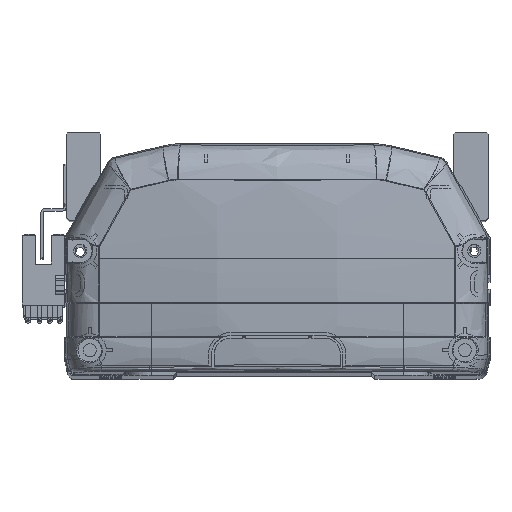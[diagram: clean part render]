
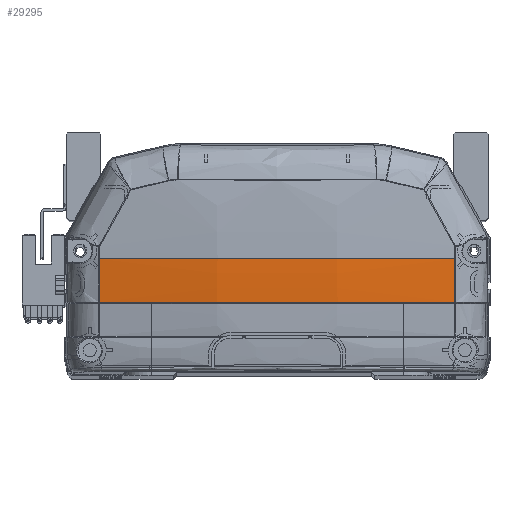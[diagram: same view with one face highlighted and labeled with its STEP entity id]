
A CAD part, top view. The second image highlights one B-rep face of the part: STEP entity #29295.
In plain terms, the highlighted free-form (B-spline) face has degree [3, 3] with [4, 4] control points.
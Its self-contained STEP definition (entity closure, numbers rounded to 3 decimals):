
#94 = VERTEX_POINT ( 'NONE', #24267 ) ;
#1400 = CARTESIAN_POINT ( 'NONE',  ( 8.363, 22.225, -9.48 ) ) ;
#3046 = ORIENTED_EDGE ( 'NONE', *, *, #52243, .T. ) ;
#3249 = CARTESIAN_POINT ( 'NONE',  ( -19.295, 26.549, -11.419 ) ) ;
#3446 = CARTESIAN_POINT ( 'NONE',  ( 57.335, 22.148, -4.7 ) ) ;
#3631 = CARTESIAN_POINT ( 'NONE',  ( -57.335, 31.38, -5.042 ) ) ;
#3642 = CARTESIAN_POINT ( 'NONE',  ( 6452.613, 35.969, -5.158 ) ) ;
#4313 = CARTESIAN_POINT ( 'NONE',  ( -56.661, 22.225, -4.818 ) ) ;
#6150 = VERTEX_POINT ( 'NONE', #41863 ) ;
#6171 = CARTESIAN_POINT ( 'NONE',  ( -56.647, 36., -5.158 ) ) ;
#7237 = CARTESIAN_POINT ( 'NONE',  ( 56.647, 35.969, -5.158 ) ) ;
#8665 = CIRCLE ( 'NONE', #43481, 6395.966 ) ;
#11970 = CARTESIAN_POINT ( 'NONE',  ( 4.761, 22.225, -9.537 ) ) ;
#12229 = CARTESIAN_POINT ( 'NONE',  ( 19.295, 21.828, -11.186 ) ) ;
#14979 = DIRECTION ( 'NONE',  ( 0., 1., 0. ) ) ;
#15966 = CARTESIAN_POINT ( 'NONE',  ( 1.152, 22.225, -9.568 ) ) ;
#16270 = CARTESIAN_POINT ( 'NONE',  ( -19.295, 21.828, -11.186 ) ) ;
#16474 = CARTESIAN_POINT ( 'NONE',  ( 57.335, 26.762, -4.928 ) ) ;
#18660 = AXIS2_PLACEMENT_3D ( 'NONE', #41523, #14979, #50618 ) ;
#18872 = CARTESIAN_POINT ( 'NONE',  ( 2.357, 22.225, -9.562 ) ) ;
#19331 = B_SPLINE_CURVE_WITH_KNOTS ( 'NONE', 3,
 ( #50505, #23970, #32873, #46248, #50108, #23578, #1400, #11970, #18872, #15966, #38864, #23462, #27898 ),
 .UNSPECIFIED., .F., .F.,
 ( 4, 2, 2, 1, 2, 2, 4 ),
 ( 0., 0.25, 0.375, 0.438, 0.469, 0.5, 1. ),
 .UNSPECIFIED. ) ;
#20100 = B_SPLINE_CURVE_WITH_KNOTS ( 'NONE', 3,
 ( #6171, #37030, #28091, #55454 ),
 .UNSPECIFIED., .F., .F.,
 ( 4, 4 ),
 ( 0., 1. ),
 .UNSPECIFIED. ) ;
#20356 = CARTESIAN_POINT ( 'NONE',  ( -56.647, 36., -5.158 ) ) ;
#21302 = CARTESIAN_POINT ( 'NONE',  ( -19.295, 36., -11.535 ) ) ;
#21323 = DIRECTION ( 'NONE',  ( 0., 0., -1. ) ) ;
#21489 = CARTESIAN_POINT ( 'NONE',  ( 57.335, 31.38, -5.042 ) ) ;
#22883 = CARTESIAN_POINT ( 'NONE',  ( 56.647, 31.387, -5.158 ) ) ;
#23109 = CIRCLE ( 'NONE', #18660, 340.733 ) ;
#23462 = CARTESIAN_POINT ( 'NONE',  ( -38.235, 22.225, -7.93 ) ) ;
#23475 = ORIENTED_EDGE ( 'NONE', *, *, #57516, .F. ) ;
#23578 = CARTESIAN_POINT ( 'NONE',  ( 11.954, 22.225, -9.367 ) ) ;
#23970 = CARTESIAN_POINT ( 'NONE',  ( 47.432, 22.225, -6.377 ) ) ;
#24267 = CARTESIAN_POINT ( 'NONE',  ( 56.661, 22.225, -4.818 ) ) ;
#24996 = ORIENTED_EDGE ( 'NONE', *, *, #54893, .F. ) ;
#25603 = CARTESIAN_POINT ( 'NONE',  ( 19.295, 36., -11.535 ) ) ;
#27898 = CARTESIAN_POINT ( 'NONE',  ( -56.661, 22.225, -4.818 ) ) ;
#28091 = CARTESIAN_POINT ( 'NONE',  ( -56.652, 26.814, -5.045 ) ) ;
#29295 = ADVANCED_FACE ( 'NONE', ( #46388 ), #36844, .T. ) ;
#29468 = DIRECTION ( 'NONE',  ( -1., 0., 0. ) ) ;
#29769 = B_SPLINE_CURVE_WITH_KNOTS ( 'NONE', 3,
 ( #36460, #35889, #22883, #40339 ),
 .UNSPECIFIED., .F., .F.,
 ( 4, 4 ),
 ( 0., 1. ),
 .UNSPECIFIED. ) ;
#30033 = CARTESIAN_POINT ( 'NONE',  ( -57.335, 36., -5.042 ) ) ;
#30221 = CARTESIAN_POINT ( 'NONE',  ( -57.335, 22.148, -4.7 ) ) ;
#32873 = CARTESIAN_POINT ( 'NONE',  ( 38.071, 22.225, -7.566 ) ) ;
#35889 = CARTESIAN_POINT ( 'NONE',  ( 56.652, 26.806, -5.044 ) ) ;
#36460 = CARTESIAN_POINT ( 'NONE',  ( 56.661, 22.225, -4.818 ) ) ;
#36844 =( BOUNDED_SURFACE ( )  B_SPLINE_SURFACE ( 3, 3, ( 
 ( #3446, #16474, #21489, #39177 ),
 ( #12229, #47510, #56826, #25603 ),
 ( #16270, #3249, #56645, #21302 ),
 ( #30221, #56455, #3631, #30033 ) ),
 .UNSPECIFIED., .F., .F., .F. ) 
 B_SPLINE_SURFACE_WITH_KNOTS ( ( 4, 4 ),
 ( 4, 4 ),
 ( 0., 1. ),
 ( 0., 1. ),
 .UNSPECIFIED. ) 
 GEOMETRIC_REPRESENTATION_ITEM ( )  RATIONAL_B_SPLINE_SURFACE ( (
 ( 1., 1., 1., 1.),
 ( 0.99, 0.99, 0.99, 0.99),
 ( 0.99, 0.99, 0.99, 0.99),
 ( 1., 1., 1., 1.) ) ) 
 REPRESENTATION_ITEM ( '' )  SURFACE ( )  );
#37030 = CARTESIAN_POINT ( 'NONE',  ( -56.647, 31.405, -5.158 ) ) ;
#38864 = CARTESIAN_POINT ( 'NONE',  ( -19.28, 22.225, -9.565 ) ) ;
#39177 = CARTESIAN_POINT ( 'NONE',  ( 57.335, 36., -5.042 ) ) ;
#40339 = CARTESIAN_POINT ( 'NONE',  ( 56.647, 35.969, -5.158 ) ) ;
#41523 = CARTESIAN_POINT ( 'NONE',  ( 0., 36., 330.833 ) ) ;
#41863 = CARTESIAN_POINT ( 'NONE',  ( 56.647, 36., -5.158 ) ) ;
#43481 = AXIS2_PLACEMENT_3D ( 'NONE', #3642, #21323, #29468 ) ;
#43749 = ORIENTED_EDGE ( 'NONE', *, *, #47572, .F. ) ;
#44039 = VERTEX_POINT ( 'NONE', #20356 ) ;
#46248 = CARTESIAN_POINT ( 'NONE',  ( 23.877, 22.225, -8.763 ) ) ;
#46388 = FACE_OUTER_BOUND ( 'NONE', #50408, .T. ) ;
#47510 = CARTESIAN_POINT ( 'NONE',  ( 19.295, 26.549, -11.419 ) ) ;
#47572 = EDGE_CURVE ( 'NONE', #44039, #49665, #20100, .T. ) ;
#48885 = EDGE_CURVE ( 'NONE', #94, #50966, #29769, .T. ) ;
#49665 = VERTEX_POINT ( 'NONE', #4313 ) ;
#50108 = CARTESIAN_POINT ( 'NONE',  ( 19.121, 22.225, -9.064 ) ) ;
#50408 = EDGE_LOOP ( 'NONE', ( #23475, #24996, #54230, #3046, #43749 ) ) ;
#50505 = CARTESIAN_POINT ( 'NONE',  ( 56.661, 22.225, -4.818 ) ) ;
#50618 = DIRECTION ( 'NONE',  ( 0., 0., -1. ) ) ;
#50966 = VERTEX_POINT ( 'NONE', #7237 ) ;
#52243 = EDGE_CURVE ( 'NONE', #94, #49665, #19331, .T. ) ;
#54230 = ORIENTED_EDGE ( 'NONE', *, *, #48885, .F. ) ;
#54893 = EDGE_CURVE ( 'NONE', #50966, #6150, #8665, .T. ) ;
#55454 = CARTESIAN_POINT ( 'NONE',  ( -56.661, 22.225, -4.818 ) ) ;
#56455 = CARTESIAN_POINT ( 'NONE',  ( -57.335, 26.762, -4.928 ) ) ;
#56645 = CARTESIAN_POINT ( 'NONE',  ( -19.295, 31.274, -11.535 ) ) ;
#56826 = CARTESIAN_POINT ( 'NONE',  ( 19.295, 31.274, -11.535 ) ) ;
#57516 = EDGE_CURVE ( 'NONE', #6150, #44039, #23109, .T. ) ;
